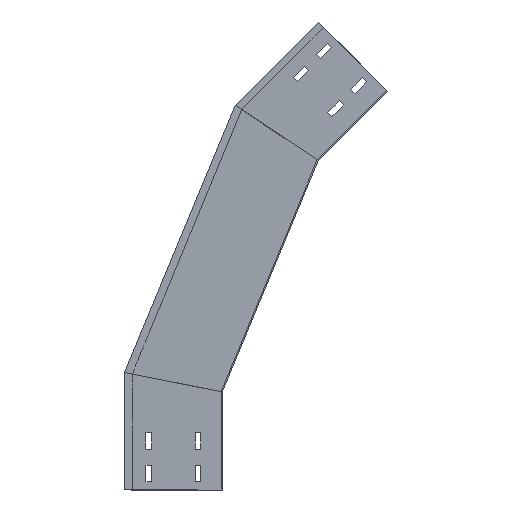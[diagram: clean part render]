
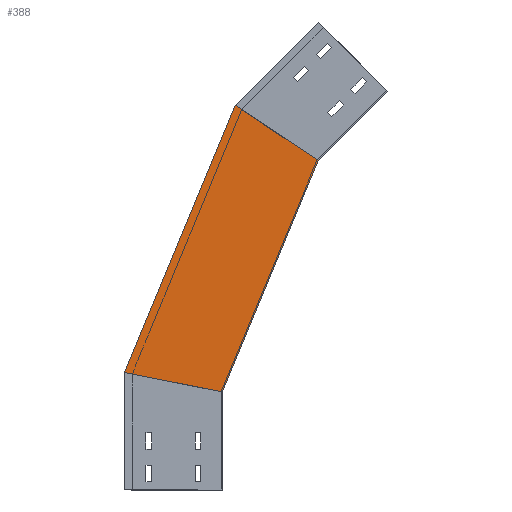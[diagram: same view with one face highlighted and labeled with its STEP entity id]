
A CAD part, left-side view. The second image highlights one B-rep face of the part: STEP entity #388.
In plain terms, the highlighted planar face has unit normal (-1, 0, 0) as drawn and (1, 0, 0) by its records, which use the part's own axes.
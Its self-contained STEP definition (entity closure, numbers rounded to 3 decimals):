
#174 = CARTESIAN_POINT ( 'NONE',  ( 0., 0., 150. ) ) ;
#200 = EDGE_LOOP ( 'NONE', ( #860, #1689, #603, #956 ) ) ;
#240 = LINE ( 'NONE', #405, #517 ) ;
#317 = EDGE_CURVE ( 'NONE', #1180, #1877, #240, .T. ) ;
#346 = CARTESIAN_POINT ( 'NONE',  ( 0., -28.701, 144.291 ) ) ;
#355 = DIRECTION ( 'NONE',  ( 0., -0.981, -0.195 ) ) ;
#388 = ADVANCED_FACE ( 'NONE', ( #701 ), #417, .T. ) ;
#405 = CARTESIAN_POINT ( 'NONE',  ( 0., 12.598, 119.585 ) ) ;
#417 = PLANE ( 'NONE',  #1791 ) ;
#517 = VECTOR ( 'NONE', #1213, 1000. ) ;
#578 = LINE ( 'NONE', #1515, #1034 ) ;
#603 = ORIENTED_EDGE ( 'NONE', *, *, #317, .F. ) ;
#625 = EDGE_CURVE ( 'NONE', #1745, #1180, #1622, .T. ) ;
#701 = FACE_OUTER_BOUND ( 'NONE', #200, .T. ) ;
#724 = CARTESIAN_POINT ( 'NONE',  ( 0., 12.598, 119.585 ) ) ;
#860 = ORIENTED_EDGE ( 'NONE', *, *, #1383, .T. ) ;
#956 = ORIENTED_EDGE ( 'NONE', *, *, #625, .F. ) ;
#994 = CARTESIAN_POINT ( 'NONE',  ( 0., -214.035, 458.766 ) ) ;
#1029 = DIRECTION ( 'NONE',  ( 0., 0., -1. ) ) ;
#1034 = VECTOR ( 'NONE', #1667, 1000. ) ;
#1037 = CARTESIAN_POINT ( 'NONE',  ( 0., 150., 179.837 ) ) ;
#1180 = VERTEX_POINT ( 'NONE', #174 ) ;
#1213 = DIRECTION ( 'NONE',  ( 0., -0.383, 0.924 ) ) ;
#1322 = DIRECTION ( 'NONE',  ( 1., 0., 0. ) ) ;
#1383 = EDGE_CURVE ( 'NONE', #1745, #1996, #578, .T. ) ;
#1472 = VECTOR ( 'NONE', #1919, 1000. ) ;
#1515 = CARTESIAN_POINT ( 'NONE',  ( 0., 151.18, 176.988 ) ) ;
#1622 = LINE ( 'NONE', #346, #1701 ) ;
#1667 = DIRECTION ( 'NONE',  ( 0., -0.383, 0.924 ) ) ;
#1689 = ORIENTED_EDGE ( 'NONE', *, *, #1960, .T. ) ;
#1701 = VECTOR ( 'NONE', #355, 1000. ) ;
#1745 = VERTEX_POINT ( 'NONE', #1037 ) ;
#1754 = LINE ( 'NONE', #994, #1472 ) ;
#1763 = CARTESIAN_POINT ( 'NONE',  ( 0., -19.404, 588.814 ) ) ;
#1791 = AXIS2_PLACEMENT_3D ( 'NONE', #724, #1322, #1029 ) ;
#1877 = VERTEX_POINT ( 'NONE', #2017 ) ;
#1919 = DIRECTION ( 'NONE',  ( 0., -0.831, -0.556 ) ) ;
#1960 = EDGE_CURVE ( 'NONE', #1996, #1877, #1754, .T. ) ;
#1996 = VERTEX_POINT ( 'NONE', #1763 ) ;
#2017 = CARTESIAN_POINT ( 'NONE',  ( 0., -146.568, 503.846 ) ) ;
